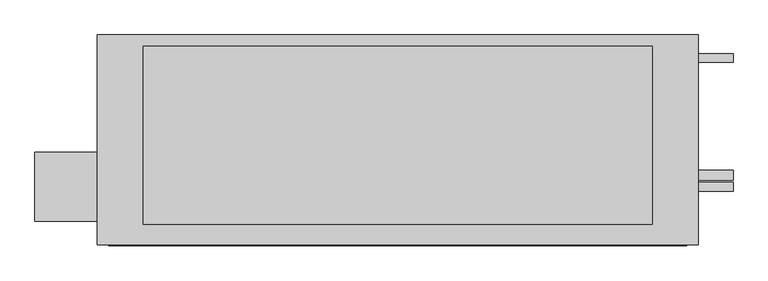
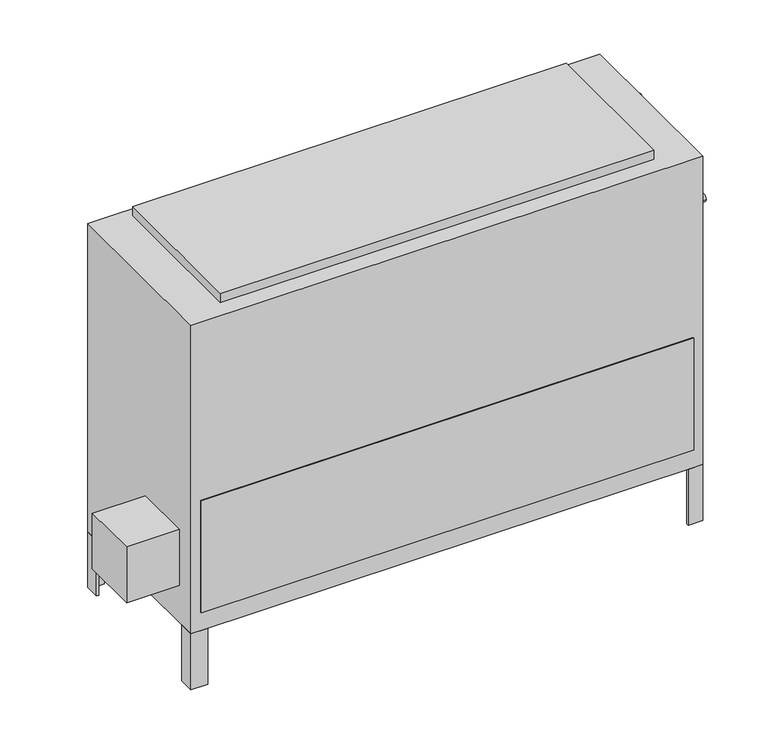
"""IFC4 building model written with IfcOpenShell, lengths in millimetres: proxy geometry, Concealed_High_Capacity_Vertical_Fan_Coil_Unit_-_42DDA_-_CARRIER_-_2-Pipe_Cool-EHeat_RH_2022 : Size 18 - 277v/60Hz/1Ph - 6 Row 12.0kW."""

from ifc_helpers import new_model, si_unit, point, frame, frame_2d, origin, origin_with_axes, place, context, project, spatial, polyline, circle_curve, trimmed, segment, composite_curve, outline, extrude, source, transform, mapped, element, save


def mechanical_equipment_c5ebb9ed(model_context):
    return source(origin(), model_context, "Body", "SweptSolid", [
        extrude(outline(polyline([(-644.525, -417.5125), (-644.525, -265.1125), (-508.0, -265.1125), (-508.0, -417.5125), (-644.525, -417.5125)])), frame((0.0, 0.0, 101.6), z_axis=(0.0, 0.0, 1.0), x_axis=(1.0, 0.0, 0.0)), (0.0, 0.0, 1.0), 152.4),
        extrude(outline(polyline([(812.8, -46.0375), (806.45, -46.0375), (806.45, -14.2875), (774.7, -14.2875), (774.7, -7.9375), (812.8, -7.9375), (812.8, -46.0375)])), frame((0.0, 0.0, -152.4), z_axis=(0.0, 0.0, 1.0), x_axis=(1.0, 0.0, 0.0)), (0.0, 0.0, 1.0), 152.4),
        extrude(outline(polyline([(-469.9, -7.9375), (-469.9, -14.2875), (-501.65, -14.2875), (-501.65, -46.0375), (-508.0, -46.0375), (-508.0, -7.9375), (-469.9, -7.9375)])), frame((0.0, 0.0, -152.4), z_axis=(0.0, 0.0, 1.0), x_axis=(1.0, 0.0, 0.0)), (0.0, 0.0, 1.0), 152.4),
        extrude(outline(polyline([(774.7, -468.3125), (774.7, -461.9625), (806.45, -461.9625), (806.45, -430.2125), (812.8, -430.2125), (812.8, -468.3125), (774.7, -468.3125)])), frame((0.0, 0.0, -152.4), z_axis=(0.0, 0.0, 1.0), x_axis=(1.0, 0.0, 0.0)), (0.0, 0.0, 1.0), 152.4),
        extrude(outline(polyline([(-508.0, -428.1199163), (-501.65, -428.1199163), (-501.65, -461.9625), (-464.5318533, -461.9625), (-464.5318533, -468.3125), (-508.0, -468.3125), (-508.0, -428.1199163)])), frame((0.0, 0.0, -152.4), z_axis=(0.0, 0.0, 1.0), x_axis=(1.0, 0.0, 0.0)), (0.0, 0.0, 1.0), 152.4),
        extrude(outline(polyline([(711.2, -33.3375), (711.2, -423.8625), (-406.4, -423.8625), (-406.4, -33.3375), (711.2, -33.3375)])), frame((0.0, 0.0, 841.375), z_axis=(0.0, 0.0, 1.0), x_axis=(1.0, 0.0, 0.0)), (0.0, 0.0, 1.0), 25.4),
        extrude(outline(polyline([(787.4, -471.4875), (-482.6, -471.4875), (-482.6, -468.3125), (787.4, -468.3125), (787.4, -471.4875)])), frame((0.0, 0.0, 50.8), z_axis=(0.0, 0.0, 1.0), x_axis=(1.0, 0.0, 0.0)), (0.0, 0.0, 1.0), 304.8),
        extrude(outline(composite_curve([segment(trimmed(circle_curve(frame_2d((-58.7375, 727.075)), 9.525), [point((-49.2125, 727.075))], [point((-68.2625, 727.075))], False, "CARTESIAN"), True, "CONTINUOUS"), segment(trimmed(circle_curve(frame_2d((-58.7375, 727.075)), 9.525), [point((-68.2625, 727.075))], [point((-49.2125, 727.075))], False, "CARTESIAN"), True, "CONTINUOUS")], self_intersect=False)), frame((812.8, 0.0, 0.0), z_axis=(1.0, 0.0, 0.0), x_axis=(0.0, 1.0, 0.0)), (0.0, 0.0, 1.0), 76.2),
        extrude(outline(composite_curve([segment(trimmed(circle_curve(frame_2d((-341.3125, 625.475)), 9.525), [point((-331.7875, 625.475))], [point((-350.8375, 625.475))], False, "CARTESIAN"), True, "CONTINUOUS"), segment(trimmed(circle_curve(frame_2d((-341.3125, 625.475)), 9.525), [point((-350.8375, 625.475))], [point((-331.7875, 625.475))], False, "CARTESIAN"), True, "CONTINUOUS")], self_intersect=False)), frame((812.8, 0.0, 0.0), z_axis=(1.0, 0.0, 0.0), x_axis=(0.0, 1.0, 0.0)), (0.0, 0.0, 1.0), 76.2),
        extrude(outline(composite_curve([segment(trimmed(circle_curve(frame_2d((-315.9125, 536.575)), 11.1125), [point((-304.8, 536.575))], [point((-327.025, 536.575))], False, "CARTESIAN"), True, "CONTINUOUS"), segment(trimmed(circle_curve(frame_2d((-315.9125, 536.575)), 11.1125), [point((-327.025, 536.575))], [point((-304.8, 536.575))], False, "CARTESIAN"), True, "CONTINUOUS")], self_intersect=False)), frame((812.8, 0.0, 0.0), z_axis=(1.0, 0.0, 0.0), x_axis=(0.0, 1.0, 0.0)), (0.0, 0.0, 1.0), 76.2),
        extrude(outline(polyline([(812.8, -7.9375), (812.8, -468.3125), (-508.0, -468.3125), (-508.0, -7.9375), (812.8, -7.9375)])), origin_with_axes(), (0.0, 0.0, 1.0), 841.375),
    ])


if __name__ == "__main__":
    model = new_model("IFC4")
    model_context = context("Model", 3, world=origin())
    ifc_project = project(units=[si_unit("LENGTHUNIT", "METRE", prefix="MILLI")], contexts=[model_context])
    site = spatial("IfcSite", under=ifc_project)
    building = spatial("IfcBuilding", under=site)
    placement = place(None, origin())
    mechanical_equipment_shape = mechanical_equipment_c5ebb9ed(model_context)
    element("IfcBuildingElementProxy", 1, Name="Concealed_High_Capacity_Vertical_Fan_Coil_Unit_-_42DDA_-_CARRIER_-_2-Pipe_Cool-EHeat_RH_2022 : Size 18 - 277v/60Hz/1Ph - 6 Row 12.0kW", ObjectType="Concealed_High_Capacity_Vertical_Fan_Coil_Unit_-_42DDA_-_CARRIER_-_2-Pipe_Cool-EHeat_RH_2022 : Size 18 - 277v/60Hz/1Ph - 6 Row 12.0kW", at=placement, inside=building, context=model_context, shape_type="MappedRepresentation", body=[
        mapped(mechanical_equipment_shape, transform((0.0, 0.0, 0.0), x_axis=(1.0, 0.0, 0.0), y_axis=(0.0, 1.0, 0.0), z_axis=(0.0, 0.0, 1.0))),
    ])
    save(model, "model.ifc")
